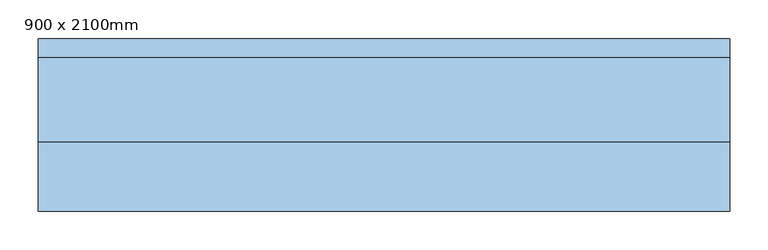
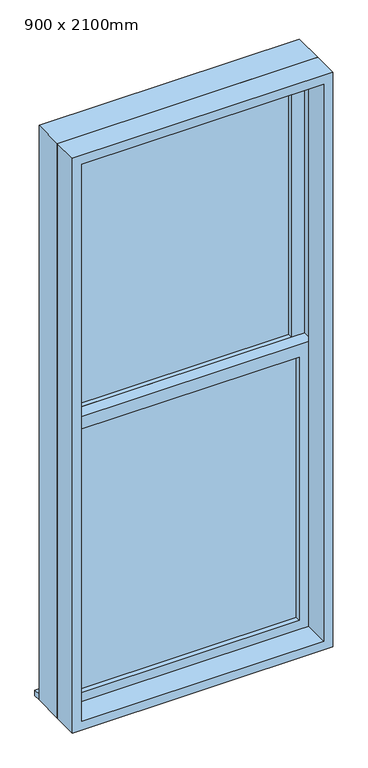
"""IFC4 building model written with IfcOpenShell, lengths in millimetres: window geometry, 上下拉窗1 : 900 x 2100mm."""

from ifc_helpers import new_model, si_unit, frame, origin, place, context, project, spatial, polyline, outline, extrude, source, transform, mapped, element, save


def window_900_x_2100mm_6ae3658a(model_context):
    return source(origin(), model_context, "Body", "SweptSolid", [
        extrude(outline(polyline([(-385.0, 62.2615397), (385.0, 62.2615397), (385.0, 52.2615397), (-385.0, 52.2615397), (-385.0, 62.2615397)])), frame((0.0, 0.0, 1372.5), z_axis=(0.0, 0.0, 1.0), x_axis=(1.0, 0.0, 0.0)), (0.0, 0.0, 1.0), 962.5),
        extrude(outline(polyline([(-385.0, 17.2615397), (385.0, 17.2615397), (385.0, 7.2615397), (-385.0, 7.2615397), (-385.0, 17.2615397)])), frame((0.0, 0.0, 365.0), z_axis=(0.0, 0.0, 1.0), x_axis=(1.0, 0.0, 0.0)), (0.0, 0.0, 1.0), 962.5),
        extrude(outline(polyline([(1372.5, -430.0), (320.0, -430.0), (320.0, 430.0), (1372.5, 430.0), (1372.5, -430.0)]), holes=[polyline([(1327.5, -385.0), (1327.5, 385.0), (365.0, 385.0), (365.0, -385.0), (1327.5, -385.0)])]), frame((0.0, -10.2384603, 0.0), z_axis=(0.0, 1.0, 0.0), x_axis=(0.0, 0.0, 1.0)), (0.0, 0.0, 1.0), 45.0),
        extrude(outline(polyline([(2380.0, -430.0), (1327.5, -430.0), (1327.5, 430.0), (2380.0, 430.0), (2380.0, -430.0)]), holes=[polyline([(2335.0, -385.0), (2335.0, 385.0), (1372.5, 385.0), (1372.5, -385.0), (2335.0, -385.0)])]), frame((0.0, 34.7615397, 0.0), z_axis=(0.0, 1.0, 0.0), x_axis=(0.0, 0.0, 1.0)), (0.0, 0.0, 1.0), 45.0),
        extrude(outline(polyline([(2400.0, -450.0), (300.0, -450.0), (300.0, 450.0), (2400.0, 450.0), (2400.0, -450.0)]), holes=[polyline([(2368.0, -418.0), (2368.0, 418.0), (332.0, 418.0), (332.0, -418.0), (2368.0, -418.0)])]), frame((0.0, -100.2384603, 0.0), z_axis=(0.0, 1.0, 0.0), x_axis=(0.0, 0.0, 1.0)), (0.0, 0.0, 1.0), 90.0),
        extrude(outline(polyline([(2400.0, 450.0), (2400.0, -450.0), (300.0, -450.0), (300.0, 450.0), (2400.0, 450.0)]), holes=[polyline([(2380.0, 430.0), (320.0, 430.0), (320.0, -430.0), (2380.0, -430.0), (2380.0, 430.0)])]), frame((0.0, -10.2384603, 0.0), z_axis=(0.0, 1.0, 0.0), x_axis=(0.0, 0.0, 1.0)), (0.0, 0.0, 1.0), 110.0),
        extrude(outline(polyline([(-450.0, 124.7615397), (450.0, 124.7615397), (450.0, 99.7615397), (-450.0, 99.7615397), (-450.0, 124.7615397)])), frame((0.0, 0.0, 300.0), z_axis=(0.0, 0.0, 1.0), x_axis=(1.0, 0.0, 0.0)), (0.0, 0.0, 1.0), 20.0),
    ])


if __name__ == "__main__":
    model = new_model("IFC4")
    model_context = context("Model", 3, world=origin())
    ifc_project = project(units=[si_unit("LENGTHUNIT", "METRE", prefix="MILLI")], contexts=[model_context])
    site = spatial("IfcSite", under=ifc_project)
    building = spatial("IfcBuilding", under=site)
    placement = place(None, origin())
    window_900_x_2100mm_shape = window_900_x_2100mm_6ae3658a(model_context)
    element("IfcWindow", 1, ObjectType="上下拉窗1 : 900 x 2100mm", at=placement, inside=building, context=model_context, shape_type="MappedRepresentation", body=[
        mapped(window_900_x_2100mm_shape, transform((0.0, 0.0, 0.0), x_axis=(1.0, 0.0, 0.0), y_axis=(0.0, 1.0, 0.0), z_axis=(0.0, 0.0, 1.0))),
    ])
    save(model, "model.ifc")
